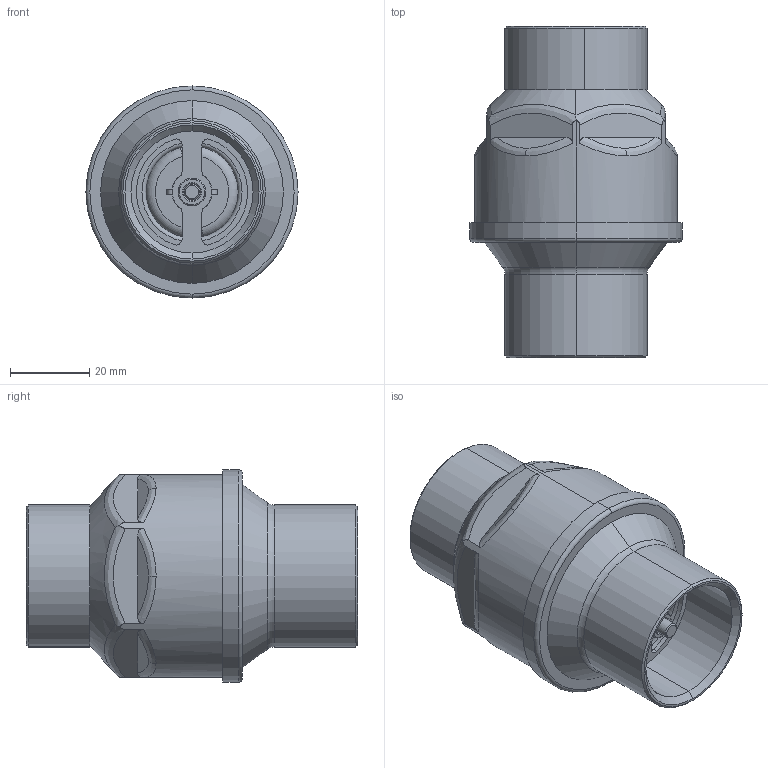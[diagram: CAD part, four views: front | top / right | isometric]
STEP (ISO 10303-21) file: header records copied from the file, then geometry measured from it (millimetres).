
FILE_DESCRIPTION (( 'STEP AP203' ), '1' );
FILE_NAME ('06N1701 G 1.STEP', '2021-02-18T12:37:44', ( '' ), ( '' ), 'SwSTEP 2.0', 'SolidWorks 2016', '' );
FILE_SCHEMA (( 'CONFIG_CONTROL_DESIGN' ));
Length unit declared in the file: millimetre
Products named in the file (15): 06I9604 X G1; 06N1705-01; 06N1702; 06I0608 X G1; 06N1703; 06I9603 X G1; 06I0607 X G1; 06N1701 G 1; 05M9502 X G1; 06D1813; 06N1704; 06F97003 X G1; 05D1810; 06I9610 X G1; 04D9903 X G1
Assembly tree (14 placements, depth 3):
  06N1701 G 1
    06I0607 X G1
    06I0608 X G1
    06I9604 X G1
    06I9610 X G1
    04D9903 X G1
    06I9603 X G1
    06N1702
      06N1704
      06N1703
    06F97003 X G1
    05M9502 X G1
    06D1813
      06N1705-01
      05D1810
Bounding box: 53.4 x 83.4 x 53.4 mm (x, y, z)
Volume: 27256.4 mm3; surface area: 40471.6 mm2
Topology: 12 solids, 12 shells, 368 faces, 888 edges, 562 vertices
Faces by surface type: cylinder 130, plane 104, torus 58, bspline 38, cone 38
Entity records: 18453 total; most frequent: CARTESIAN_POINT 8345, DIRECTION 1848, ORIENTED_EDGE 1776, EDGE_CURVE 888, AXIS2_PLACEMENT_3D 769, VERTEX_POINT 562, CIRCLE 420, EDGE_LOOP 410
